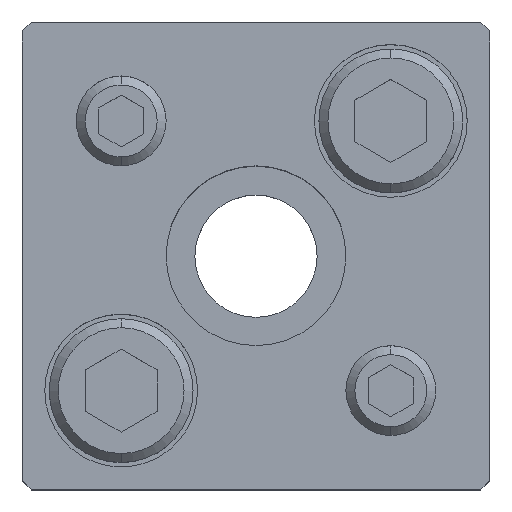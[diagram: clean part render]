
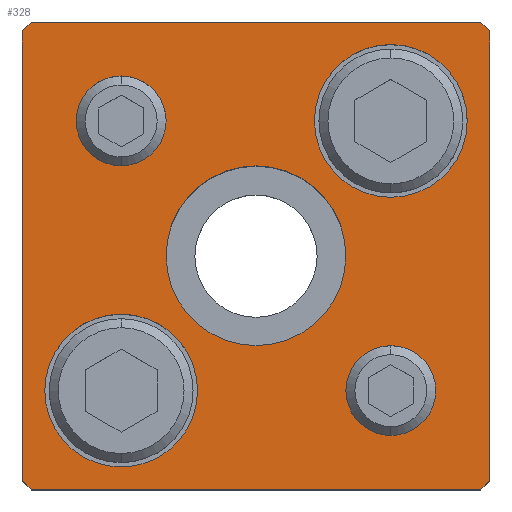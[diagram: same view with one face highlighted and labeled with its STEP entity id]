
A CAD part, top view. The second image highlights one B-rep face of the part: STEP entity #328.
In plain terms, the highlighted planar face has unit normal (0, 0, 1).
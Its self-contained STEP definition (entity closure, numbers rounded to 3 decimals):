
#119=PLANE('',#2702);
#192=FACE_BOUND('',#649,.T.);
#193=FACE_BOUND('',#650,.T.);
#194=FACE_BOUND('',#651,.T.);
#195=FACE_BOUND('',#652,.T.);
#196=FACE_BOUND('',#653,.T.);
#197=FACE_BOUND('',#654,.T.);
#328=ADVANCED_FACE('',(#192,#193,#194,#195,#196,#197),#119,.T.);
#649=EDGE_LOOP('',(#1071,#1072,#1073,#1074,#1075,#1076,#1077,#1078));
#650=EDGE_LOOP('',(#1079,#1080));
#651=EDGE_LOOP('',(#1081,#1082));
#652=EDGE_LOOP('',(#1083,#1084));
#653=EDGE_LOOP('',(#1085,#1086));
#654=EDGE_LOOP('',(#1087,#1088));
#833=CIRCLE('',#2678,5.);
#835=CIRCLE('',#2681,5.);
#837=CIRCLE('',#2684,5.);
#839=CIRCLE('',#2687,5.);
#845=CIRCLE('',#2696,8.5);
#846=CIRCLE('',#2697,8.5);
#847=CIRCLE('',#2698,8.5);
#848=CIRCLE('',#2699,8.5);
#849=CIRCLE('',#2700,10.);
#850=CIRCLE('',#2701,10.);
#1071=ORIENTED_EDGE('',*,*,#1923,.T.);
#1072=ORIENTED_EDGE('',*,*,#1924,.T.);
#1073=ORIENTED_EDGE('',*,*,#1925,.T.);
#1074=ORIENTED_EDGE('',*,*,#1926,.T.);
#1075=ORIENTED_EDGE('',*,*,#1927,.T.);
#1076=ORIENTED_EDGE('',*,*,#1928,.T.);
#1077=ORIENTED_EDGE('',*,*,#1929,.T.);
#1078=ORIENTED_EDGE('',*,*,#1930,.T.);
#1079=ORIENTED_EDGE('',*,*,#1931,.F.);
#1080=ORIENTED_EDGE('',*,*,#1932,.F.);
#1081=ORIENTED_EDGE('',*,*,#1933,.F.);
#1082=ORIENTED_EDGE('',*,*,#1934,.F.);
#1083=ORIENTED_EDGE('',*,*,#1915,.F.);
#1084=ORIENTED_EDGE('',*,*,#1911,.F.);
#1085=ORIENTED_EDGE('',*,*,#1909,.F.);
#1086=ORIENTED_EDGE('',*,*,#1905,.F.);
#1087=ORIENTED_EDGE('',*,*,#1935,.T.);
#1088=ORIENTED_EDGE('',*,*,#1936,.T.);
#1659=VERTEX_POINT('',#3859);
#1660=VERTEX_POINT('',#3860);
#1663=VERTEX_POINT('',#3871);
#1664=VERTEX_POINT('',#3872);
#1671=VERTEX_POINT('',#3895);
#1672=VERTEX_POINT('',#3896);
#1673=VERTEX_POINT('',#3898);
#1674=VERTEX_POINT('',#3900);
#1675=VERTEX_POINT('',#3902);
#1676=VERTEX_POINT('',#3904);
#1677=VERTEX_POINT('',#3906);
#1678=VERTEX_POINT('',#3908);
#1679=VERTEX_POINT('',#3911);
#1680=VERTEX_POINT('',#3912);
#1681=VERTEX_POINT('',#3915);
#1682=VERTEX_POINT('',#3916);
#1683=VERTEX_POINT('',#3919);
#1684=VERTEX_POINT('',#3920);
#1905=EDGE_CURVE('',#1659,#1660,#833,.T.);
#1909=EDGE_CURVE('',#1660,#1659,#835,.T.);
#1911=EDGE_CURVE('',#1663,#1664,#837,.T.);
#1915=EDGE_CURVE('',#1664,#1663,#839,.T.);
#1923=EDGE_CURVE('',#1671,#1672,#2217,.T.);
#1924=EDGE_CURVE('',#1672,#1673,#2218,.T.);
#1925=EDGE_CURVE('',#1673,#1674,#2219,.T.);
#1926=EDGE_CURVE('',#1674,#1675,#2220,.T.);
#1927=EDGE_CURVE('',#1675,#1676,#2221,.T.);
#1928=EDGE_CURVE('',#1676,#1677,#2222,.T.);
#1929=EDGE_CURVE('',#1677,#1678,#2223,.T.);
#1930=EDGE_CURVE('',#1678,#1671,#2224,.T.);
#1931=EDGE_CURVE('',#1679,#1680,#845,.T.);
#1932=EDGE_CURVE('',#1680,#1679,#846,.T.);
#1933=EDGE_CURVE('',#1681,#1682,#847,.T.);
#1934=EDGE_CURVE('',#1682,#1681,#848,.T.);
#1935=EDGE_CURVE('',#1683,#1684,#849,.T.);
#1936=EDGE_CURVE('',#1684,#1683,#850,.T.);
#2217=LINE('',#3894,#2429);
#2218=LINE('',#3897,#2430);
#2219=LINE('',#3899,#2431);
#2220=LINE('',#3901,#2432);
#2221=LINE('',#3903,#2433);
#2222=LINE('',#3905,#2434);
#2223=LINE('',#3907,#2435);
#2224=LINE('',#3909,#2436);
#2429=VECTOR('',#3097,1.);
#2430=VECTOR('',#3098,1.);
#2431=VECTOR('',#3099,1.);
#2432=VECTOR('',#3100,1.);
#2433=VECTOR('',#3101,1.);
#2434=VECTOR('',#3102,1.);
#2435=VECTOR('',#3103,1.);
#2436=VECTOR('',#3104,1.);
#2678=AXIS2_PLACEMENT_3D('',#3858,#3055,#3056);
#2681=AXIS2_PLACEMENT_3D('',#3867,#3063,#3064);
#2684=AXIS2_PLACEMENT_3D('',#3870,#3069,#3070);
#2687=AXIS2_PLACEMENT_3D('',#3879,#3077,#3078);
#2696=AXIS2_PLACEMENT_3D('',#3910,#3105,#3106);
#2697=AXIS2_PLACEMENT_3D('',#3913,#3107,#3108);
#2698=AXIS2_PLACEMENT_3D('',#3914,#3109,#3110);
#2699=AXIS2_PLACEMENT_3D('',#3917,#3111,#3112);
#2700=AXIS2_PLACEMENT_3D('',#3918,#3113,#3114);
#2701=AXIS2_PLACEMENT_3D('',#3921,#3115,#3116);
#2702=AXIS2_PLACEMENT_3D('',#3922,#3117,#3118);
#3055=DIRECTION('',(0.,0.,1.));
#3056=DIRECTION('',(1.,0.,0.));
#3063=DIRECTION('',(0.,0.,1.));
#3064=DIRECTION('',(-1.,0.,0.));
#3069=DIRECTION('',(0.,0.,1.));
#3070=DIRECTION('',(1.,0.,0.));
#3077=DIRECTION('',(0.,0.,1.));
#3078=DIRECTION('',(-1.,0.,0.));
#3097=DIRECTION('',(1.,0.,0.));
#3098=DIRECTION('',(0.707,0.707,0.));
#3099=DIRECTION('',(0.,1.,0.));
#3100=DIRECTION('',(-0.707,0.707,0.));
#3101=DIRECTION('',(-1.,0.,0.));
#3102=DIRECTION('',(-0.707,-0.707,0.));
#3103=DIRECTION('',(0.,-1.,0.));
#3104=DIRECTION('',(0.707,-0.707,0.));
#3105=DIRECTION('',(0.,0.,1.));
#3106=DIRECTION('',(1.,0.,0.));
#3107=DIRECTION('',(0.,0.,1.));
#3108=DIRECTION('',(-1.,0.,0.));
#3109=DIRECTION('',(0.,0.,1.));
#3110=DIRECTION('',(1.,0.,0.));
#3111=DIRECTION('',(0.,0.,1.));
#3112=DIRECTION('',(-1.,0.,0.));
#3113=DIRECTION('',(0.,0.,-1.));
#3114=DIRECTION('',(-1.,0.,0.));
#3115=DIRECTION('',(0.,0.,-1.));
#3116=DIRECTION('',(1.,0.,0.));
#3117=DIRECTION('',(0.,0.,1.));
#3118=DIRECTION('',(-1.,0.,0.));
#3858=CARTESIAN_POINT('',(15.,-15.,35.));
#3859=CARTESIAN_POINT('',(15.,-10.,35.));
#3860=CARTESIAN_POINT('',(15.,-20.,35.));
#3867=CARTESIAN_POINT('',(15.,-15.,35.));
#3870=CARTESIAN_POINT('',(-15.,15.,35.));
#3871=CARTESIAN_POINT('',(-15.,20.,35.));
#3872=CARTESIAN_POINT('',(-15.,10.,35.));
#3879=CARTESIAN_POINT('',(-15.,15.,35.));
#3894=CARTESIAN_POINT('',(25.,-26.,35.));
#3895=CARTESIAN_POINT('',(-25.,-26.,35.));
#3896=CARTESIAN_POINT('',(25.,-26.,35.));
#3897=CARTESIAN_POINT('',(26.,-25.,35.));
#3898=CARTESIAN_POINT('',(26.,-25.,35.));
#3899=CARTESIAN_POINT('',(26.,25.,35.));
#3900=CARTESIAN_POINT('',(26.,25.,35.));
#3901=CARTESIAN_POINT('',(25.,26.,35.));
#3902=CARTESIAN_POINT('',(25.,26.,35.));
#3903=CARTESIAN_POINT('',(-25.,26.,35.));
#3904=CARTESIAN_POINT('',(-25.,26.,35.));
#3905=CARTESIAN_POINT('',(-26.,25.,35.));
#3906=CARTESIAN_POINT('',(-26.,25.,35.));
#3907=CARTESIAN_POINT('',(-26.,-25.,35.));
#3908=CARTESIAN_POINT('',(-26.,-25.,35.));
#3909=CARTESIAN_POINT('',(-25.,-26.,35.));
#3910=CARTESIAN_POINT('',(-15.,-15.,35.));
#3911=CARTESIAN_POINT('',(-15.,-6.5,35.));
#3912=CARTESIAN_POINT('',(-15.,-23.5,35.));
#3913=CARTESIAN_POINT('',(-15.,-15.,35.));
#3914=CARTESIAN_POINT('',(15.,15.,35.));
#3915=CARTESIAN_POINT('',(15.,23.5,35.));
#3916=CARTESIAN_POINT('',(15.,6.5,35.));
#3917=CARTESIAN_POINT('',(15.,15.,35.));
#3918=CARTESIAN_POINT('',(0.,0.,35.));
#3919=CARTESIAN_POINT('',(0.,10.,35.));
#3920=CARTESIAN_POINT('',(0.,-10.,35.));
#3921=CARTESIAN_POINT('',(0.,0.,35.));
#3922=CARTESIAN_POINT('',(-25.,-26.,35.));
